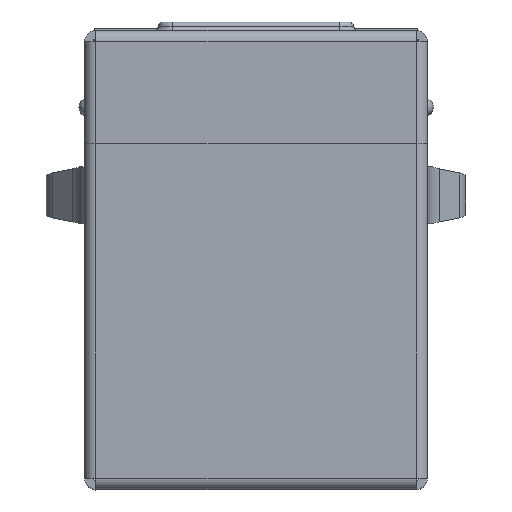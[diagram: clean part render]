
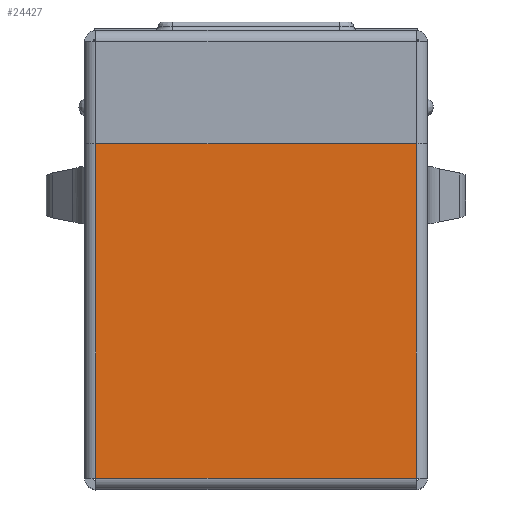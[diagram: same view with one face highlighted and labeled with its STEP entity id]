
A CAD part, top view. The second image highlights one B-rep face of the part: STEP entity #24427.
In plain terms, the highlighted planar face has unit normal (0, 0, 1) as drawn and (0, 0, -1) by its records, which use the part's own axes.
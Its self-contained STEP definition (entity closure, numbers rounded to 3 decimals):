
#15756 = VERTEX_POINT('',#15757);
#15757 = CARTESIAN_POINT('',(-5.65,11.8,0.));
#22731 = VERTEX_POINT('',#22732);
#22732 = CARTESIAN_POINT('',(5.65,11.8,0.));
#22739 = EDGE_CURVE('',#15756,#22731,#22740,.T.);
#22740 = LINE('',#22741,#22742);
#22741 = CARTESIAN_POINT('',(5.876,11.8,0.));
#22742 = VECTOR('',#22743,1.);
#22743 = DIRECTION('',(1.,0.,0.));
#24406 = VERTEX_POINT('',#24407);
#24407 = CARTESIAN_POINT('',(5.65,0.,0.));
#24414 = EDGE_CURVE('',#22731,#24406,#24415,.T.);
#24415 = LINE('',#24416,#24417);
#24416 = CARTESIAN_POINT('',(5.65,-0.236,0.));
#24417 = VECTOR('',#24418,1.);
#24418 = DIRECTION('',(0.,-1.,0.));
#24427 = ADVANCED_FACE('',(#24428),#24446,.T.);
#24428 = FACE_BOUND('',#24429,.T.);
#24429 = EDGE_LOOP('',(#24430,#24438,#24439,#24440));
#24430 = ORIENTED_EDGE('',*,*,#24431,.T.);
#24431 = EDGE_CURVE('',#24432,#15756,#24434,.T.);
#24432 = VERTEX_POINT('',#24433);
#24433 = CARTESIAN_POINT('',(-5.65,0.,0.));
#24434 = LINE('',#24435,#24436);
#24435 = CARTESIAN_POINT('',(-5.65,-0.236,0.));
#24436 = VECTOR('',#24437,1.);
#24437 = DIRECTION('',(0.,1.,0.));
#24438 = ORIENTED_EDGE('',*,*,#22739,.T.);
#24439 = ORIENTED_EDGE('',*,*,#24414,.T.);
#24440 = ORIENTED_EDGE('',*,*,#24441,.T.);
#24441 = EDGE_CURVE('',#24406,#24432,#24442,.T.);
#24442 = LINE('',#24443,#24444);
#24443 = CARTESIAN_POINT('',(5.876,0.,0.));
#24444 = VECTOR('',#24445,1.);
#24445 = DIRECTION('',(-1.,0.,0.));
#24446 = PLANE('',#24447);
#24447 = AXIS2_PLACEMENT_3D('',#24448,#24449,#24450);
#24448 = CARTESIAN_POINT('',(5.876,-0.236,0.));
#24449 = DIRECTION('',(0.,0.,-1.));
#24450 = DIRECTION('',(-1.,0.,0.));
